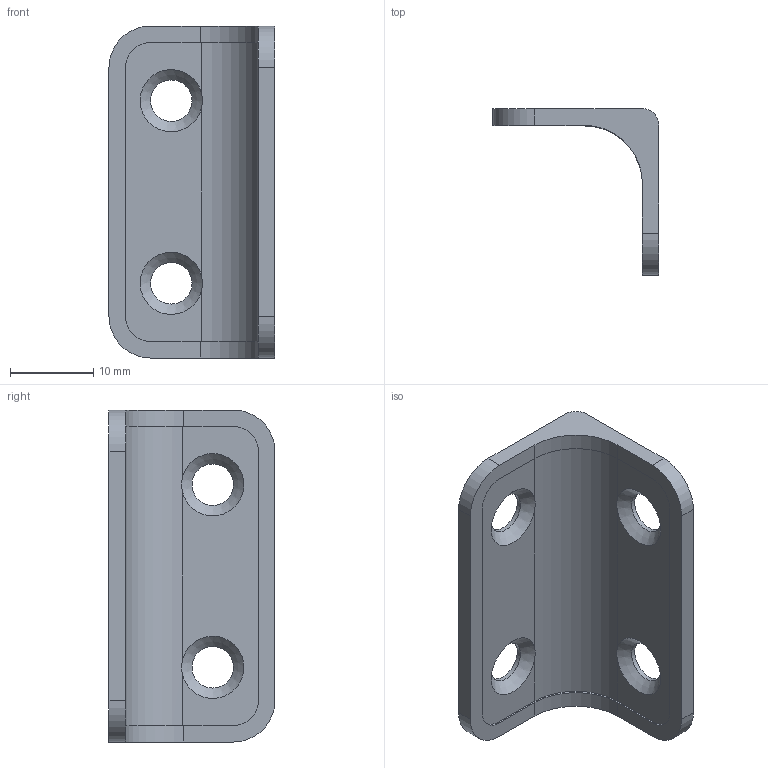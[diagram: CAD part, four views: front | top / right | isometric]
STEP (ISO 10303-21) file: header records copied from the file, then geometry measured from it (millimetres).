
FILE_DESCRIPTION(/* description */ (''),/* implementation_level */ '2;1');
FILE_NAME(/* name */ '\\NAS\db20\S-AGC4020-20\DR_S-AGC4020-20.stp',/* time_stamp */ '2017-10-13T08:39:06+09:00',/* author */ ('user'),/* organization */ (''),/* preprocessor_version */ 'ST-DEVELOPER v15.6',/* originating_system */ 'Autodesk Inventor 2015',/* authorisation */ '');
FILE_SCHEMA (('AUTOMOTIVE_DESIGN { 1 0 10303 214 3 1 1 }'));
Length unit declared in the file: millimetre
Products named in the file (1): DR_S-AGC4020-20
Bounding box: 20 x 20 x 40 mm (x, y, z)
Volume: 2954.4 mm3; surface area: 3115.5 mm2
Topology: 1 solids, 1 shells, 34 faces, 108 edges, 72 vertices
Faces by surface type: cylinder 16, plane 14, cone 4
Full cylindrical faces by diameter (mm): 5 x4
Entity records: 1150 total; most frequent: CARTESIAN_POINT 213, DIRECTION 194, ORIENTED_EDGE 184, EDGE_CURVE 92, AXIS2_PLACEMENT_3D 71, VERTEX_POINT 64, LINE 52, VECTOR 52
